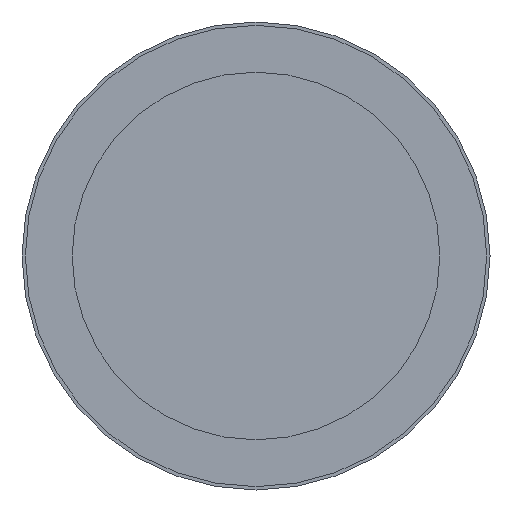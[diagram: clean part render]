
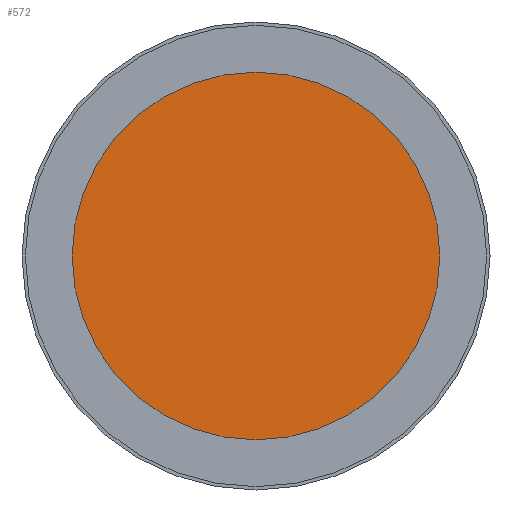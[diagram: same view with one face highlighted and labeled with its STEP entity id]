
A CAD part, front view. The second image highlights one B-rep face of the part: STEP entity #572.
In plain terms, the highlighted planar face has unit normal (0, -1, 0).
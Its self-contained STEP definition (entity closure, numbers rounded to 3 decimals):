
#9 = ORIENTED_EDGE ( 'NONE', *, *, #547, .F. ) ;
#89 = FACE_OUTER_BOUND ( 'NONE', #232, .T. ) ;
#120 = CIRCLE ( 'NONE', #454, 11. ) ;
#157 = CIRCLE ( 'NONE', #400, 11. ) ;
#232 = EDGE_LOOP ( 'NONE', ( #306, #9 ) ) ;
#265 = VERTEX_POINT ( 'NONE', #678 ) ;
#278 = VERTEX_POINT ( 'NONE', #985 ) ;
#306 = ORIENTED_EDGE ( 'NONE', *, *, #501, .F. ) ;
#400 = AXIS2_PLACEMENT_3D ( 'NONE', #657, #654, #638 ) ;
#454 = AXIS2_PLACEMENT_3D ( 'NONE', #891, #890, #889 ) ;
#501 = EDGE_CURVE ( 'NONE', #278, #265, #157, .T. ) ;
#513 = AXIS2_PLACEMENT_3D ( 'NONE', #774, #767, #766 ) ;
#547 = EDGE_CURVE ( 'NONE', #265, #278, #120, .T. ) ;
#572 = ADVANCED_FACE ( 'NONE', ( #89 ), #769, .F. ) ;
#638 = DIRECTION ( 'NONE',  ( 0., 0., 1. ) ) ;
#654 = DIRECTION ( 'NONE',  ( 0., 1., 0. ) ) ;
#657 = CARTESIAN_POINT ( 'NONE',  ( 0., -17.2, 0. ) ) ;
#678 = CARTESIAN_POINT ( 'NONE',  ( 0., -17.2, -11. ) ) ;
#766 = DIRECTION ( 'NONE',  ( 0., 0., 1. ) ) ;
#767 = DIRECTION ( 'NONE',  ( 0., 1., 0. ) ) ;
#769 = PLANE ( 'NONE',  #513 ) ;
#774 = CARTESIAN_POINT ( 'NONE',  ( 0., -17.2, 0. ) ) ;
#889 = DIRECTION ( 'NONE',  ( 0., 0., 1. ) ) ;
#890 = DIRECTION ( 'NONE',  ( 0., 1., 0. ) ) ;
#891 = CARTESIAN_POINT ( 'NONE',  ( 0., -17.2, 0. ) ) ;
#985 = CARTESIAN_POINT ( 'NONE',  ( 0., -17.2, 11. ) ) ;
